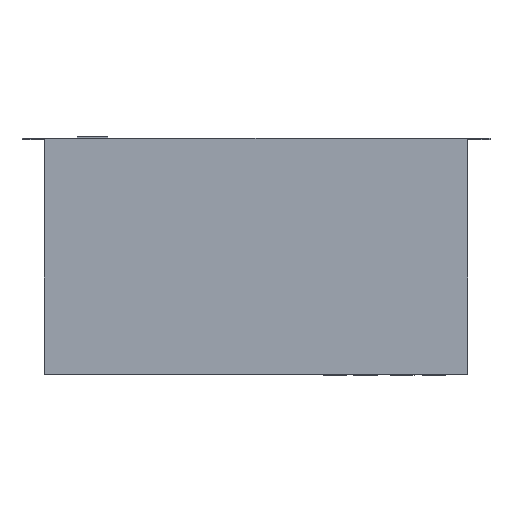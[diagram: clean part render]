
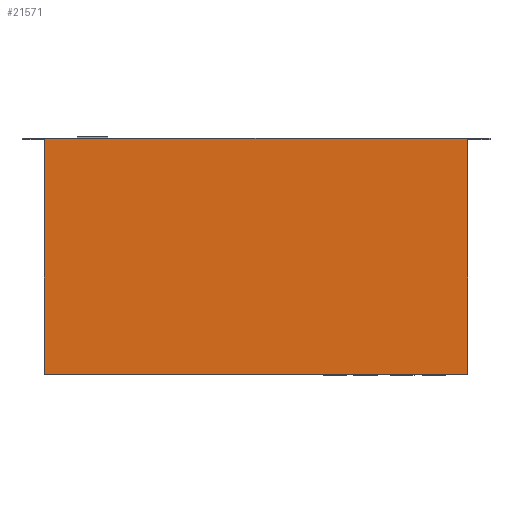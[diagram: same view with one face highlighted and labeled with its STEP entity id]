
A CAD part, top view. The second image highlights one B-rep face of the part: STEP entity #21571.
In plain terms, the highlighted planar face has unit normal (0, 0, 1).
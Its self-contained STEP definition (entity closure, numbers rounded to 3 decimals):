
#21571=ADVANCED_FACE('',(#43646),#43648,.F.);
#43646=FACE_BOUND('',#43647,.T.);
#43647=EDGE_LOOP('',(#64244,#64245,#64246,#64247,#64248,#64249,#64250,#64251));
#43648=PLANE('',#43649);
#43649=AXIS2_PLACEMENT_3D('',#43650,#43651,#43652);
#43650=CARTESIAN_POINT('',(0.,0.,43.9));
#43651=DIRECTION('',(0.,0.,-1.));
#43652=DIRECTION('',(0.,1.,0.));
#64244=ORIENTED_EDGE('',*,*,#74878,.F.);
#64245=ORIENTED_EDGE('',*,*,#74873,.F.);
#64246=ORIENTED_EDGE('',*,*,#74879,.F.);
#64247=ORIENTED_EDGE('',*,*,#74880,.T.);
#64248=ORIENTED_EDGE('',*,*,#74881,.T.);
#64249=ORIENTED_EDGE('',*,*,#74882,.F.);
#64250=ORIENTED_EDGE('',*,*,#74883,.F.);
#64251=ORIENTED_EDGE('',*,*,#74884,.T.);
#74873=EDGE_CURVE('',#87078,#87079,#87080,.T.);
#74878=EDGE_CURVE('',#87079,#87088,#87089,.T.);
#74879=EDGE_CURVE('',#87090,#87078,#87091,.T.);
#74880=EDGE_CURVE('',#87090,#87092,#87093,.T.);
#74881=EDGE_CURVE('',#87092,#87094,#87095,.T.);
#74882=EDGE_CURVE('',#87096,#87094,#87097,.T.);
#74883=EDGE_CURVE('',#87098,#87096,#87099,.T.);
#74884=EDGE_CURVE('',#87098,#87088,#87100,.T.);
#87078=VERTEX_POINT('',#120567);
#87079=VERTEX_POINT('',#120568);
#87080=LINE('',#120569,#120570);
#87088=VERTEX_POINT('',#120588);
#87089=LINE('',#120589,#120590);
#87090=VERTEX_POINT('',#120592);
#87091=LINE('',#120593,#120594);
#87092=VERTEX_POINT('',#120596);
#87093=LINE('',#120597,#120598);
#87094=VERTEX_POINT('',#120600);
#87095=LINE('',#120601,#120602);
#87096=VERTEX_POINT('',#120604);
#87097=LINE('',#120605,#120606);
#87098=VERTEX_POINT('',#120608);
#87099=LINE('',#120609,#120610);
#87100=LINE('',#120612,#120613);
#120567=CARTESIAN_POINT('',(220.,-245.,43.9));
#120568=CARTESIAN_POINT('',(-220.,-245.,43.9));
#120569=CARTESIAN_POINT('',(220.,-245.,43.9));
#120570=VECTOR('',#120571,1.);
#120571=DIRECTION('',(-1.,0.,0.));
#120588=CARTESIAN_POINT('',(-220.,-1.,43.9));
#120589=CARTESIAN_POINT('',(-220.,-245.,43.9));
#120590=VECTOR('',#120591,1.);
#120591=DIRECTION('',(0.,1.,0.));
#120592=CARTESIAN_POINT('',(220.,-1.,43.9));
#120593=CARTESIAN_POINT('',(220.,-1.,43.9));
#120594=VECTOR('',#120595,1.);
#120595=DIRECTION('',(0.,-1.,0.));
#120596=CARTESIAN_POINT('',(241.,-1.,43.9));
#120597=CARTESIAN_POINT('',(220.,-1.,43.9));
#120598=VECTOR('',#120599,1.);
#120599=DIRECTION('',(1.,0.,0.));
#120600=CARTESIAN_POINT('',(241.,0.,43.9));
#120601=CARTESIAN_POINT('',(241.,-1.,43.9));
#120602=VECTOR('',#120603,1.);
#120603=DIRECTION('',(0.,1.,0.));
#120604=CARTESIAN_POINT('',(-241.,0.,43.9));
#120605=CARTESIAN_POINT('',(-241.,0.,43.9));
#120606=VECTOR('',#120607,1.);
#120607=DIRECTION('',(1.,0.,0.));
#120608=CARTESIAN_POINT('',(-241.,-1.,43.9));
#120609=CARTESIAN_POINT('',(-241.,-1.,43.9));
#120610=VECTOR('',#120611,1.);
#120611=DIRECTION('',(0.,1.,0.));
#120612=CARTESIAN_POINT('',(-241.,-1.,43.9));
#120613=VECTOR('',#120614,1.);
#120614=DIRECTION('',(1.,0.,0.));
